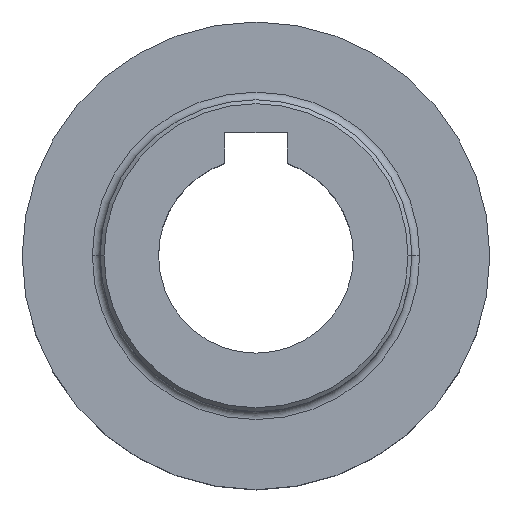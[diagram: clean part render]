
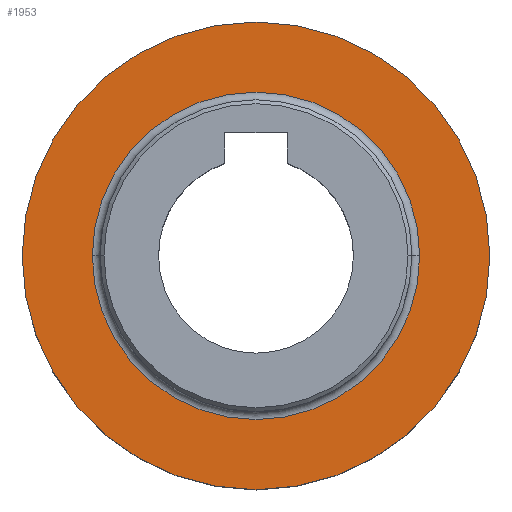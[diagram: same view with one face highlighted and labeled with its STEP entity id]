
A CAD part, top view. The second image highlights one B-rep face of the part: STEP entity #1953.
In plain terms, the highlighted planar face has unit normal (0, 0, 1).
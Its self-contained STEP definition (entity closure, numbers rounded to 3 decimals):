
#20 = VERTEX_POINT ( 'NONE', #259 ) ;
#21 = VERTEX_POINT ( 'NONE', #286 ) ;
#259 = CARTESIAN_POINT ( 'NONE',  ( -21., 0., 10.5 ) ) ;
#286 = CARTESIAN_POINT ( 'NONE',  ( 21., 0., 10.5 ) ) ;
#551 = EDGE_CURVE ( 'NONE', #21, #20, #915, .T. ) ;
#566 = DIRECTION ( 'NONE',  ( 1., 0., 0. ) ) ;
#899 = DIRECTION ( 'NONE',  ( 1., 0., 0. ) ) ;
#900 = DIRECTION ( 'NONE',  ( 0., 0., -1. ) ) ;
#901 = CARTESIAN_POINT ( 'NONE',  ( 0., 0., 10.5 ) ) ;
#909 = AXIS2_PLACEMENT_3D ( 'NONE', #901, #900, #899 ) ;
#915 = CIRCLE ( 'NONE', #909, 21. ) ;
#1095 = DIRECTION ( 'NONE',  ( 0., 0., -1. ) ) ;
#1096 = CARTESIAN_POINT ( 'NONE',  ( 0., 0., 10.5 ) ) ;
#1105 = AXIS2_PLACEMENT_3D ( 'NONE', #1096, #1095, #566 ) ;
#1111 = CIRCLE ( 'NONE', #1105, 21. ) ;
#1442 = FACE_OUTER_BOUND ( 'NONE', #1949, .T. ) ;
#1449 = FACE_BOUND ( 'NONE', #1812, .T. ) ;
#1509 = DIRECTION ( 'NONE',  ( -1., 0., 0. ) ) ;
#1510 = AXIS2_PLACEMENT_3D ( 'NONE', #1512, #1513, #1509 ) ;
#1512 = CARTESIAN_POINT ( 'NONE',  ( 0., 0., 10.5 ) ) ;
#1513 = DIRECTION ( 'NONE',  ( 0., 0., -1. ) ) ;
#1523 = CIRCLE ( 'NONE', #1510, 30. ) ;
#1659 = DIRECTION ( 'NONE',  ( 1., 0., 0. ) ) ;
#1695 = CARTESIAN_POINT ( 'NONE',  ( 0., 0., 10.5 ) ) ;
#1697 = DIRECTION ( 'NONE',  ( 0., 0., 1. ) ) ;
#1699 = PLANE ( 'NONE',  #1702 ) ;
#1702 = AXIS2_PLACEMENT_3D ( 'NONE', #1695, #1697, #1659 ) ;
#1764 = EDGE_CURVE ( 'NONE', #4942, #5180, #1523, .T. ) ;
#1812 = EDGE_LOOP ( 'NONE', ( #1940, #1952 ) ) ;
#1940 = ORIENTED_EDGE ( 'NONE', *, *, #551, .T. ) ;
#1949 = EDGE_LOOP ( 'NONE', ( #1950, #1964 ) ) ;
#1950 = ORIENTED_EDGE ( 'NONE', *, *, #1764, .F. ) ;
#1952 = ORIENTED_EDGE ( 'NONE', *, *, #1954, .T. ) ;
#1953 = ADVANCED_FACE ( 'NONE', ( #1449, #1442 ), #1699, .T. ) ;
#1954 = EDGE_CURVE ( 'NONE', #20, #21, #1111, .T. ) ;
#1964 = ORIENTED_EDGE ( 'NONE', *, *, #5338, .F. ) ;
#3353 = CARTESIAN_POINT ( 'NONE',  ( 30., 0., 10.5 ) ) ;
#3409 = CARTESIAN_POINT ( 'NONE',  ( -30., 0., 10.5 ) ) ;
#3708 = CARTESIAN_POINT ( 'NONE',  ( 0., 0., 10.5 ) ) ;
#3712 = AXIS2_PLACEMENT_3D ( 'NONE', #3708, #3728, #3765 ) ;
#3728 = DIRECTION ( 'NONE',  ( 0., 0., -1. ) ) ;
#3732 = CIRCLE ( 'NONE', #3712, 30. ) ;
#3765 = DIRECTION ( 'NONE',  ( -1., 0., 0. ) ) ;
#4942 = VERTEX_POINT ( 'NONE', #3353 ) ;
#5180 = VERTEX_POINT ( 'NONE', #3409 ) ;
#5338 = EDGE_CURVE ( 'NONE', #5180, #4942, #3732, .T. ) ;
